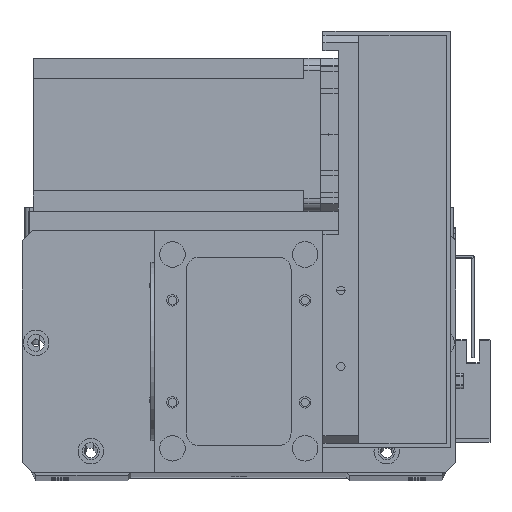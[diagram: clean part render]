
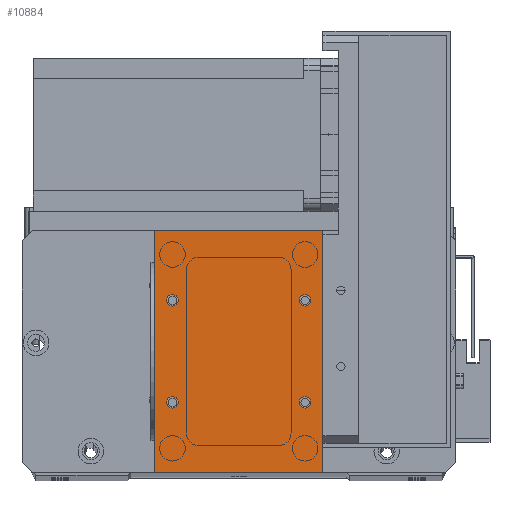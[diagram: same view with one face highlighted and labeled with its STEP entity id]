
A CAD part, top view. The second image highlights one B-rep face of the part: STEP entity #10884.
In plain terms, the highlighted planar face has unit normal (0, 0, 1).
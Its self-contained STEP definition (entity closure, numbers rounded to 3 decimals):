
#54 = CARTESIAN_POINT ( 'NONE',  ( 66., 95., 2. ) ) ;
#88 = VERTEX_POINT ( 'NONE', #14664 ) ;
#324 = DIRECTION ( 'NONE',  ( 1., 0., 0. ) ) ;
#524 = DIRECTION ( 'NONE',  ( 1., 0., 0. ) ) ;
#582 = DIRECTION ( 'NONE',  ( 0., 0., -1. ) ) ;
#701 = VERTEX_POINT ( 'NONE', #19043 ) ;
#805 = DIRECTION ( 'NONE',  ( 1., 0., 0. ) ) ;
#972 = VECTOR ( 'NONE', #8617, 1000. ) ;
#1053 = ORIENTED_EDGE ( 'NONE', *, *, #7928, .F. ) ;
#1955 = EDGE_LOOP ( 'NONE', ( #9397, #10107 ) ) ;
#2162 = CIRCLE ( 'NONE', #19779, 2.25 ) ;
#2805 = DIRECTION ( 'NONE',  ( 1., 0., 0. ) ) ;
#2885 = DIRECTION ( 'NONE',  ( 0., 0., 1. ) ) ;
#2957 = CARTESIAN_POINT ( 'NONE',  ( 59., 67.5, 2. ) ) ;
#3064 = VECTOR ( 'NONE', #22628, 1000. ) ;
#3244 = AXIS2_PLACEMENT_3D ( 'NONE', #7420, #24579, #9879 ) ;
#3866 = FACE_BOUND ( 'NONE', #9799, .T. ) ;
#4027 = VERTEX_POINT ( 'NONE', #19453 ) ;
#4246 = CARTESIAN_POINT ( 'NONE',  ( 4.75, 67.5, 2. ) ) ;
#4265 = CIRCLE ( 'NONE', #15835, 2.25 ) ;
#5373 = AXIS2_PLACEMENT_3D ( 'NONE', #21840, #7160, #24322 ) ;
#5473 = EDGE_CURVE ( 'NONE', #19025, #30729, #21310, .T. ) ;
#5632 = EDGE_CURVE ( 'NONE', #17280, #23966, #22478, .T. ) ;
#6866 = CARTESIAN_POINT ( 'NONE',  ( 4.75, 27.5, 2. ) ) ;
#6882 = ORIENTED_EDGE ( 'NONE', *, *, #10187, .F. ) ;
#7160 = DIRECTION ( 'NONE',  ( 0., 0., 1. ) ) ;
#7373 = ORIENTED_EDGE ( 'NONE', *, *, #30670, .F. ) ;
#7420 = CARTESIAN_POINT ( 'NONE',  ( 7., 27.5, 2. ) ) ;
#7824 = CARTESIAN_POINT ( 'NONE',  ( 0., 95., 2. ) ) ;
#7928 = EDGE_CURVE ( 'NONE', #23966, #17280, #2162, .T. ) ;
#8051 = EDGE_CURVE ( 'NONE', #19642, #19193, #29388, .T. ) ;
#8216 = CARTESIAN_POINT ( 'NONE',  ( 0., 0., 2. ) ) ;
#8617 = DIRECTION ( 'NONE',  ( 0., 1., 0. ) ) ;
#8652 = CARTESIAN_POINT ( 'NONE',  ( 9.25, 67.5, 2. ) ) ;
#9167 = CARTESIAN_POINT ( 'NONE',  ( 66., 0., 2. ) ) ;
#9201 = ORIENTED_EDGE ( 'NONE', *, *, #26078, .T. ) ;
#9215 = EDGE_CURVE ( 'NONE', #701, #19025, #28928, .T. ) ;
#9397 = ORIENTED_EDGE ( 'NONE', *, *, #12266, .F. ) ;
#9799 = EDGE_LOOP ( 'NONE', ( #16725, #7373 ) ) ;
#9879 = DIRECTION ( 'NONE',  ( 1., 0., 0. ) ) ;
#9887 = AXIS2_PLACEMENT_3D ( 'NONE', #2957, #2885, #2805 ) ;
#10107 = ORIENTED_EDGE ( 'NONE', *, *, #28476, .F. ) ;
#10187 = EDGE_CURVE ( 'NONE', #19193, #19642, #17396, .T. ) ;
#10368 = PLANE ( 'NONE',  #28338 ) ;
#10397 = CARTESIAN_POINT ( 'NONE',  ( 7., 67.5, 2. ) ) ;
#10410 = FACE_BOUND ( 'NONE', #1955, .T. ) ;
#10884 = ADVANCED_FACE ( 'NONE', ( #10410, #23451, #3866, #29198, #22693 ), #10368, .F. ) ;
#10952 = AXIS2_PLACEMENT_3D ( 'NONE', #29709, #15071, #324 ) ;
#11199 = CARTESIAN_POINT ( 'NONE',  ( 9.25, 27.5, 2. ) ) ;
#12151 = CARTESIAN_POINT ( 'NONE',  ( 59., 67.5, 2. ) ) ;
#12266 = EDGE_CURVE ( 'NONE', #21887, #18708, #26442, .T. ) ;
#12703 = CIRCLE ( 'NONE', #15224, 2.25 ) ;
#12850 = DIRECTION ( 'NONE',  ( 1., 0., 0. ) ) ;
#12919 = CARTESIAN_POINT ( 'NONE',  ( 66., 0., 2. ) ) ;
#12994 = CARTESIAN_POINT ( 'NONE',  ( 56.75, 27.5, 2. ) ) ;
#13081 = EDGE_LOOP ( 'NONE', ( #9201, #21646, #30028, #25199 ) ) ;
#13405 = CIRCLE ( 'NONE', #5373, 2.25 ) ;
#14504 = CARTESIAN_POINT ( 'NONE',  ( 59., 27.5, 2. ) ) ;
#14632 = DIRECTION ( 'NONE',  ( 1., 0., 0. ) ) ;
#14664 = CARTESIAN_POINT ( 'NONE',  ( 61.25, 27.5, 2. ) ) ;
#15071 = DIRECTION ( 'NONE',  ( 0., 0., 1. ) ) ;
#15224 = AXIS2_PLACEMENT_3D ( 'NONE', #10397, #27546, #12850 ) ;
#15254 = DIRECTION ( 'NONE',  ( 0., 0., 1. ) ) ;
#15261 = ORIENTED_EDGE ( 'NONE', *, *, #8051, .F. ) ;
#15835 = AXIS2_PLACEMENT_3D ( 'NONE', #14504, #31628, #16967 ) ;
#16531 = EDGE_LOOP ( 'NONE', ( #1053, #18168 ) ) ;
#16725 = ORIENTED_EDGE ( 'NONE', *, *, #28260, .F. ) ;
#16892 = LINE ( 'NONE', #7824, #3064 ) ;
#16967 = DIRECTION ( 'NONE',  ( 1., 0., 0. ) ) ;
#17280 = VERTEX_POINT ( 'NONE', #27605 ) ;
#17396 = CIRCLE ( 'NONE', #3244, 2.25 ) ;
#17455 = VECTOR ( 'NONE', #805, 1000. ) ;
#17685 = CARTESIAN_POINT ( 'NONE',  ( 0., 0., 2. ) ) ;
#17788 = DIRECTION ( 'NONE',  ( -1., 0., 0. ) ) ;
#17797 = VERTEX_POINT ( 'NONE', #12994 ) ;
#18168 = ORIENTED_EDGE ( 'NONE', *, *, #5632, .F. ) ;
#18704 = AXIS2_PLACEMENT_3D ( 'NONE', #29915, #15254, #524 ) ;
#18708 = VERTEX_POINT ( 'NONE', #4246 ) ;
#19025 = VERTEX_POINT ( 'NONE', #12919 ) ;
#19043 = CARTESIAN_POINT ( 'NONE',  ( 0., 0., 2. ) ) ;
#19193 = VERTEX_POINT ( 'NONE', #11199 ) ;
#19453 = CARTESIAN_POINT ( 'NONE',  ( 0., 95., 2. ) ) ;
#19642 = VERTEX_POINT ( 'NONE', #6866 ) ;
#19779 = AXIS2_PLACEMENT_3D ( 'NONE', #12151, #29299, #14632 ) ;
#20775 = CARTESIAN_POINT ( 'NONE',  ( 61.25, 67.5, 2. ) ) ;
#21310 = LINE ( 'NONE', #9167, #972 ) ;
#21646 = ORIENTED_EDGE ( 'NONE', *, *, #9215, .T. ) ;
#21705 = VECTOR ( 'NONE', #24178, 1000. ) ;
#21840 = CARTESIAN_POINT ( 'NONE',  ( 59., 27.5, 2. ) ) ;
#21887 = VERTEX_POINT ( 'NONE', #8652 ) ;
#22478 = CIRCLE ( 'NONE', #9887, 2.25 ) ;
#22628 = DIRECTION ( 'NONE',  ( -1., 0., 0. ) ) ;
#22693 = FACE_OUTER_BOUND ( 'NONE', #13081, .T. ) ;
#23451 = FACE_BOUND ( 'NONE', #16531, .T. ) ;
#23654 = EDGE_LOOP ( 'NONE', ( #6882, #15261 ) ) ;
#23966 = VERTEX_POINT ( 'NONE', #20775 ) ;
#24178 = DIRECTION ( 'NONE',  ( 0., -1., 0. ) ) ;
#24322 = DIRECTION ( 'NONE',  ( 1., 0., 0. ) ) ;
#24579 = DIRECTION ( 'NONE',  ( 0., 0., 1. ) ) ;
#25199 = ORIENTED_EDGE ( 'NONE', *, *, #30309, .T. ) ;
#26078 = EDGE_CURVE ( 'NONE', #4027, #701, #29008, .T. ) ;
#26442 = CIRCLE ( 'NONE', #18704, 2.25 ) ;
#27546 = DIRECTION ( 'NONE',  ( 0., 0., 1. ) ) ;
#27605 = CARTESIAN_POINT ( 'NONE',  ( 56.75, 67.5, 2. ) ) ;
#28260 = EDGE_CURVE ( 'NONE', #88, #17797, #4265, .T. ) ;
#28338 = AXIS2_PLACEMENT_3D ( 'NONE', #17685, #582, #17788 ) ;
#28476 = EDGE_CURVE ( 'NONE', #18708, #21887, #12703, .T. ) ;
#28928 = LINE ( 'NONE', #8216, #17455 ) ;
#29008 = LINE ( 'NONE', #31656, #21705 ) ;
#29198 = FACE_BOUND ( 'NONE', #23654, .T. ) ;
#29299 = DIRECTION ( 'NONE',  ( 0., 0., 1. ) ) ;
#29388 = CIRCLE ( 'NONE', #10952, 2.25 ) ;
#29709 = CARTESIAN_POINT ( 'NONE',  ( 7., 27.5, 2. ) ) ;
#29915 = CARTESIAN_POINT ( 'NONE',  ( 7., 67.5, 2. ) ) ;
#30028 = ORIENTED_EDGE ( 'NONE', *, *, #5473, .T. ) ;
#30309 = EDGE_CURVE ( 'NONE', #30729, #4027, #16892, .T. ) ;
#30670 = EDGE_CURVE ( 'NONE', #17797, #88, #13405, .T. ) ;
#30729 = VERTEX_POINT ( 'NONE', #54 ) ;
#31628 = DIRECTION ( 'NONE',  ( 0., 0., 1. ) ) ;
#31656 = CARTESIAN_POINT ( 'NONE',  ( 0., 0., 2. ) ) ;
